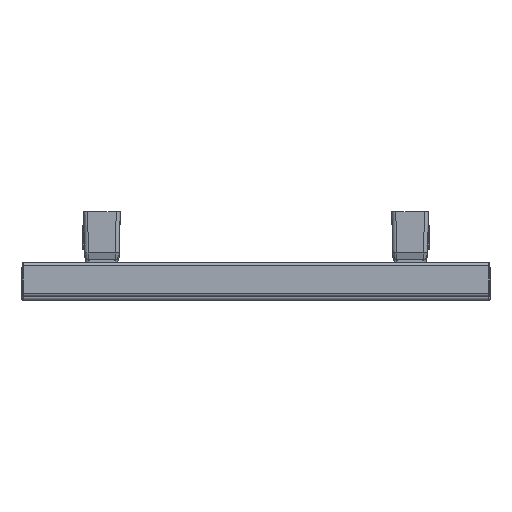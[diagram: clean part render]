
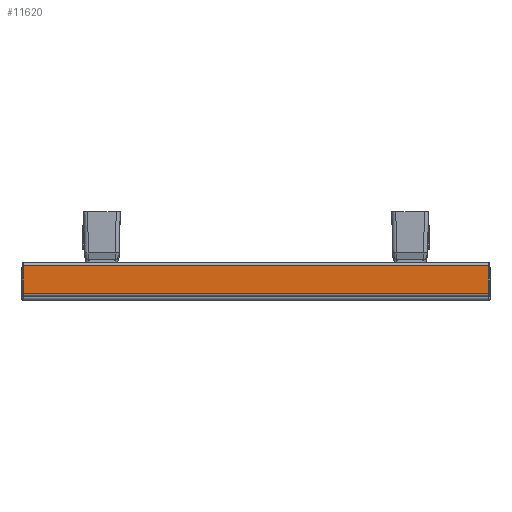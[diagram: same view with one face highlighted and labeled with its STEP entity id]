
A CAD part, top view. The second image highlights one B-rep face of the part: STEP entity #11620.
In plain terms, the highlighted planar face has unit normal (0, 0, 1).
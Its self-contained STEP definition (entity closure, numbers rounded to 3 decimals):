
#10915=CARTESIAN_POINT('',(-204.,-12.,1900.));
#10916=VERTEX_POINT('',#10915);
#10983=CARTESIAN_POINT('',(-204.,12.,1900.));
#10984=VERTEX_POINT('',#10983);
#11001=CARTESIAN_POINT('',(-204.,-12.,1900.));
#11002=DIRECTION('',(0.0,1.0,0.0));
#11003=VECTOR('',#11002,24.);
#11004=LINE('',#11001,#11003);
#11005=EDGE_CURVE('',#10916,#10984,#11004,.T.);
#11155=CARTESIAN_POINT('',(204.,12.,1900.));
#11156=VERTEX_POINT('',#11155);
#11164=CARTESIAN_POINT('',(204.,-12.,1900.));
#11165=VERTEX_POINT('',#11164);
#11166=CARTESIAN_POINT('',(204.,12.,1900.));
#11167=DIRECTION('',(0.0,-1.0,0.0));
#11168=VECTOR('',#11167,24.0);
#11169=LINE('',#11166,#11168);
#11170=EDGE_CURVE('',#11156,#11165,#11169,.T.);
#11592=CARTESIAN_POINT('',(204.,-12.,1900.));
#11593=DIRECTION('',(-1.0,0.0,0.0));
#11594=VECTOR('',#11593,408.);
#11595=LINE('',#11592,#11594);
#11596=EDGE_CURVE('',#11165,#10916,#11595,.T.);
#11604=CARTESIAN_POINT('',(0.,-12.,1900.));
#11605=DIRECTION('',(0.0,0.0,1.0));
#11606=DIRECTION('',(-1.0,0.0,0.0));
#11607=AXIS2_PLACEMENT_3D('',#11604,#11605,#11606);
#11608=PLANE('',#11607);
#11609=CARTESIAN_POINT('',(204.,12.,1900.));
#11610=DIRECTION('',(-1.0,0.0,0.0));
#11611=VECTOR('',#11610,408.);
#11612=LINE('',#11609,#11611);
#11613=EDGE_CURVE('',#11156,#10984,#11612,.T.);
#11614=ORIENTED_EDGE('',*,*,#11613,.T.);
#11615=ORIENTED_EDGE('',*,*,#11005,.F.);
#11616=ORIENTED_EDGE('',*,*,#11596,.F.);
#11617=ORIENTED_EDGE('',*,*,#11170,.F.);
#11618=EDGE_LOOP('',(#11614,#11615,#11616,#11617));
#11619=FACE_OUTER_BOUND('',#11618,.T.);
#11620=ADVANCED_FACE('',(#11619),#11608,.T.);
